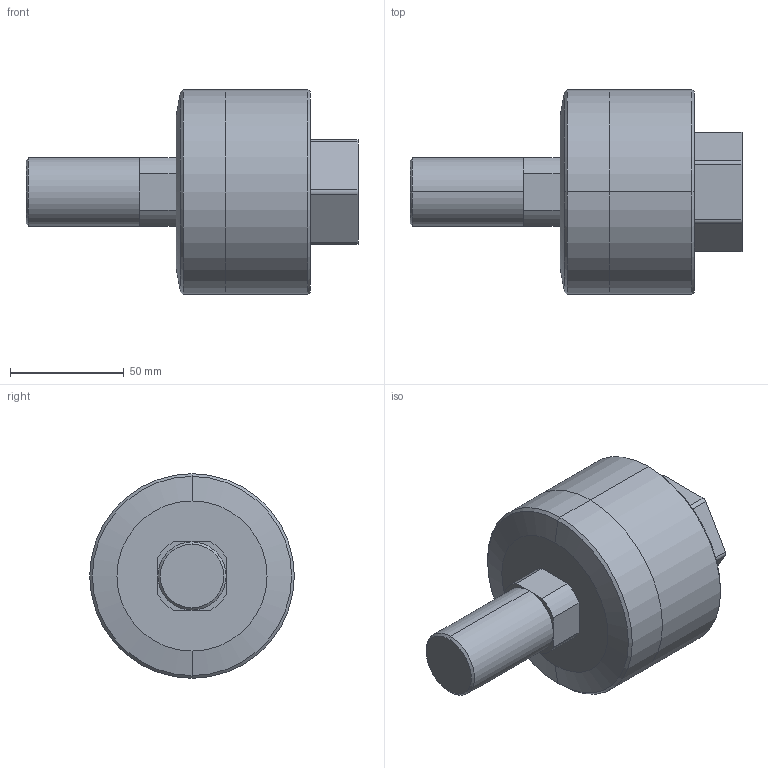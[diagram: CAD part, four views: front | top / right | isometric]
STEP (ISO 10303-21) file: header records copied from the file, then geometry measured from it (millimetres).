
FILE_DESCRIPTION (( 'STEP AP203' ), '1' );
FILE_NAME ('FCM30-1.5.STEP', '2016-03-23T03:42:58', ( 'Sam Lin' ), ( '' ), 'SwSTEP 2.0', 'SolidWorks 2013', '' );
FILE_SCHEMA (( 'CONFIG_CONTROL_DESIGN' ));
Length unit declared in the file: millimetre
Products named in the file (1): FCM30-1.5
Bounding box: 146 x 90 x 90 mm (x, y, z)
Volume: 441693.2 mm3; surface area: 40441.7 mm2
Topology: 1 solids, 1 shells, 45 faces, 104 edges, 64 vertices
Faces by surface type: plane 19, cylinder 18, cone 8
Entity records: 1351 total; most frequent: DIRECTION 240, CARTESIAN_POINT 214, ORIENTED_EDGE 208, EDGE_CURVE 104, AXIS2_PLACEMENT_3D 90, VERTEX_POINT 64, LINE 60, VECTOR 60
